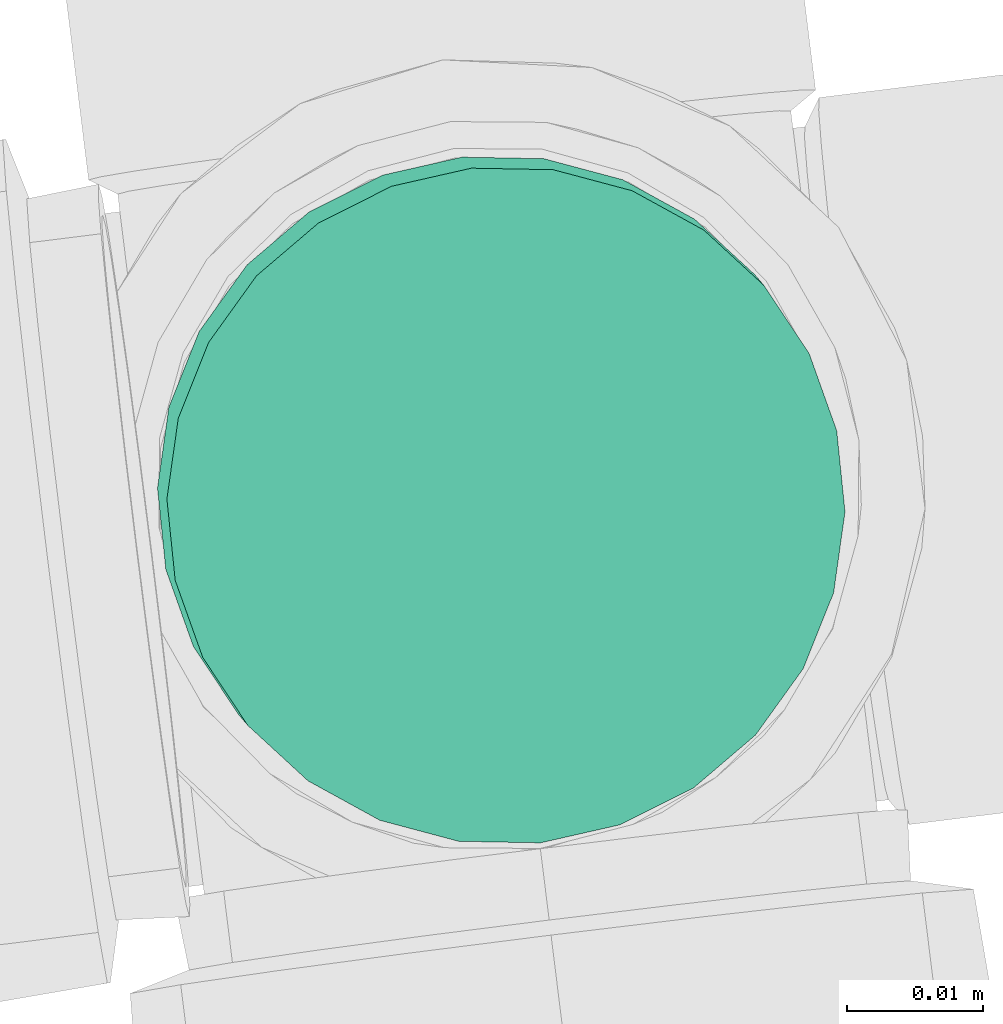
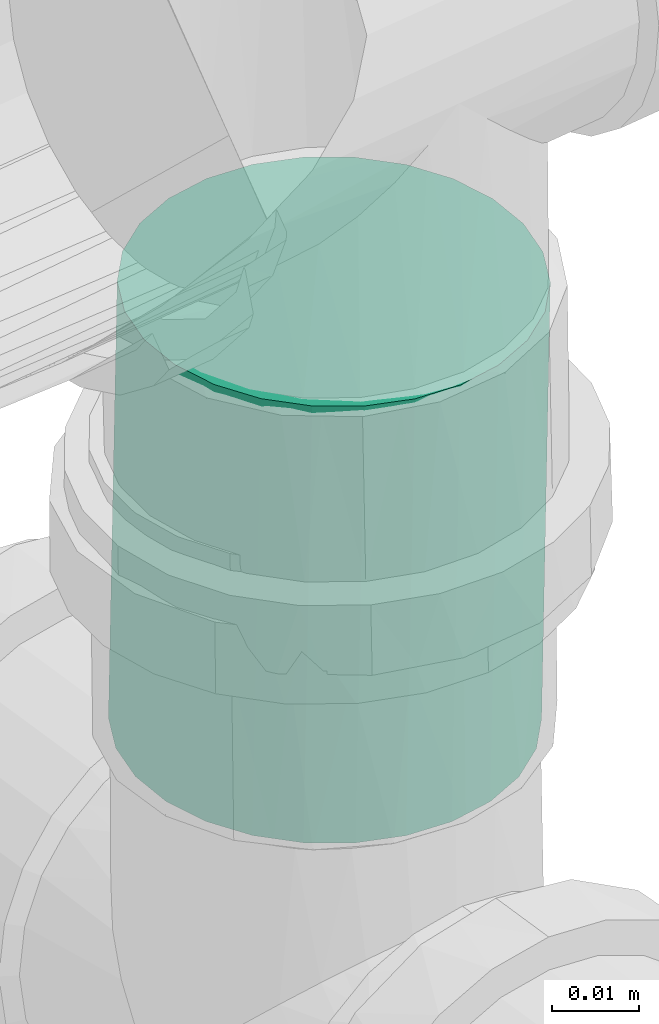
# One storey, part 69 of 97: 1 flow segment.
"""IFC2X3 building model written with IfcOpenShell, lengths in centimetres."""

from ifc_helpers import new_model, entity, si_unit, converted_unit, derived_unit, direction, frame, frame_2d, origin, place, context, subcontext, project, spatial, circle, extrude, type_object, element, save


model = new_model("IFC2X3")

# Units and contexts
model_context = context("Model", 3, precision=0.001, world=origin(), true_north=direction((6.12303176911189e-17, 1.0)))
body_context = subcontext(model_context, "Body", "Model", "MODEL_VIEW")
ifc_project = project(units=[si_unit("LENGTHUNIT", "METRE", prefix="CENTI"), si_unit("AREAUNIT", "SQUARE_METRE"), si_unit("VOLUMEUNIT", "CUBIC_METRE"), converted_unit("PLANEANGLEUNIT", "DEGREE", entity("IfcRatioMeasure", 0.0174532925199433), si_unit("PLANEANGLEUNIT", "RADIAN"), dimensions=[0, 0, 0, 0, 0, 0, 0]), si_unit("MASSUNIT", "GRAM", prefix="KILO"), derived_unit("MASSDENSITYUNIT", [(si_unit("MASSUNIT", "GRAM", prefix="KILO"), 1), (si_unit("LENGTHUNIT", "METRE"), -3)]), derived_unit("MOMENTOFINERTIAUNIT", [(si_unit("LENGTHUNIT", "METRE"), 4)]), si_unit("TIMEUNIT", "SECOND"), si_unit("FREQUENCYUNIT", "HERTZ"), si_unit("THERMODYNAMICTEMPERATUREUNIT", "DEGREE_CELSIUS"), derived_unit("THERMALTRANSMITTANCEUNIT", [(si_unit("MASSUNIT", "GRAM", prefix="KILO"), 1), (si_unit("THERMODYNAMICTEMPERATUREUNIT", "KELVIN"), -1), (si_unit("TIMEUNIT", "SECOND"), -3)]), derived_unit("VOLUMETRICFLOWRATEUNIT", [(si_unit("LENGTHUNIT", "METRE"), 3), (si_unit("TIMEUNIT", "SECOND"), -1)]), si_unit("ELECTRICCURRENTUNIT", "AMPERE"), si_unit("ELECTRICVOLTAGEUNIT", "VOLT"), si_unit("POWERUNIT", "WATT"), si_unit("FORCEUNIT", "NEWTON", prefix="KILO"), si_unit("ILLUMINANCEUNIT", "LUX"), si_unit("LUMINOUSFLUXUNIT", "LUMEN"), si_unit("LUMINOUSINTENSITYUNIT", "CANDELA"), derived_unit("USERDEFINED", [(si_unit("MASSUNIT", "GRAM", prefix="KILO"), -1), (si_unit("LENGTHUNIT", "METRE"), -2), (si_unit("TIMEUNIT", "SECOND"), 3), (si_unit("LUMINOUSFLUXUNIT", "LUMEN"), 1)]), derived_unit("LINEARVELOCITYUNIT", [(si_unit("LENGTHUNIT", "METRE"), 1), (si_unit("TIMEUNIT", "SECOND"), -1)]), si_unit("PRESSUREUNIT", "PASCAL"), derived_unit("USERDEFINED", [(si_unit("LENGTHUNIT", "METRE"), -2), (si_unit("MASSUNIT", "GRAM", prefix="KILO"), 1), (si_unit("TIMEUNIT", "SECOND"), -2)]), derived_unit("LINEARFORCEUNIT", [(si_unit("MASSUNIT", "GRAM", prefix="KILO"), 1), (si_unit("LENGTHUNIT", "METRE"), 1), (si_unit("TIMEUNIT", "SECOND"), -2), (si_unit("LENGTHUNIT", "METRE"), -1)]), derived_unit("PLANARFORCEUNIT", [(si_unit("MASSUNIT", "GRAM", prefix="KILO"), 1), (si_unit("LENGTHUNIT", "METRE"), 1), (si_unit("TIMEUNIT", "SECOND"), -2), (si_unit("LENGTHUNIT", "METRE"), -2)])], contexts=[model_context])

# Site, building, storey
site_placement = place(None, origin())
site = spatial("IfcSite", under=ifc_project, at=site_placement, Name="Default", CompositionType="ELEMENT")
building_placement = place(site_placement, origin())
building = spatial("IfcBuilding", under=site, at=building_placement, Name="HIDROSSANITÁRIO", CompositionType="ELEMENT")
storey_placement = place(building_placement, frame((0.0, 0.0, -260.0)))
storey = spatial("IfcBuildingStorey", under=building, at=storey_placement, Name="TÉRREO-HID", CompositionType="ELEMENT", Elevation=-260.0)

# Flow segment
pipe_segment_type = type_object("IfcPipeSegmentType", Name="Tipos de tubos:Tubo - Esgoto - Série Normal", PredefinedType="NOTDEFINED")
flow_segment_placement = place(storey_placement, origin())
element("IfcFlowSegment", 1, at=flow_segment_placement, inside=storey, type_object=pipe_segment_type, Name="Tipos de tubos:Tubo - Esgoto - Série Normal", ObjectType="Tipos de tubos:Tubo - Esgoto - Série Normal", context=body_context, shape_type="SweptSolid", body=[
    extrude(circle(Radius=2.5, at=frame_2d((-2.81043761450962e-13, 3.28606140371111e-13), x_axis=(1.0, 0.0))), frame((-1662.7549503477, 2847.69226564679, -22.898208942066), z_axis=(-0.0112186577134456, 0.0131565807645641, -0.999850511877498), x_axis=(-0.760923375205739, -0.648841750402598, 0.0)), (0.0, 0.0, 1.0), 6.17779141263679),
])

save(model, "model.ifc")
